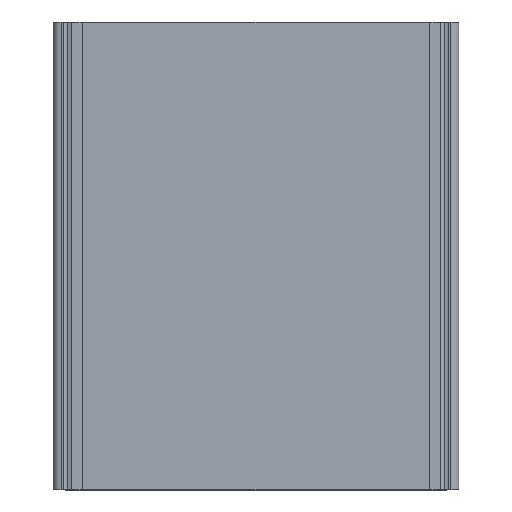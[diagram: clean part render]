
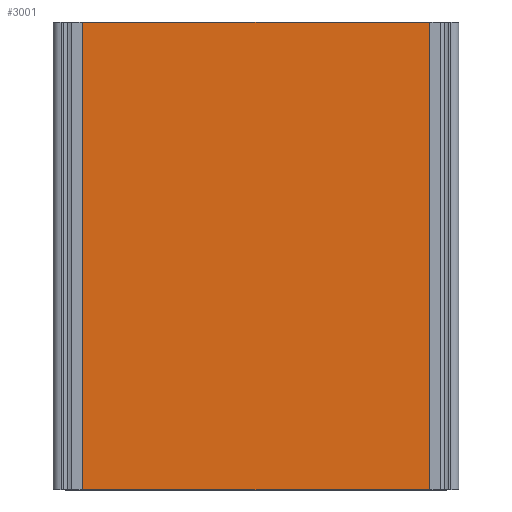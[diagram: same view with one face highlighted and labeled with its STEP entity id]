
A CAD part, top view. The second image highlights one B-rep face of the part: STEP entity #3001.
In plain terms, the highlighted planar face has unit normal (0, 0, 1).
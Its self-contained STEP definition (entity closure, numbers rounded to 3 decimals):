
#44 = VECTOR ( 'NONE', #2488, 1000. ) ;
#217 = FACE_OUTER_BOUND ( 'NONE', #2179, .T. ) ;
#388 = VERTEX_POINT ( 'NONE', #511 ) ;
#511 = CARTESIAN_POINT ( 'NONE',  ( 47.584, 0., 3. ) ) ;
#556 = VERTEX_POINT ( 'NONE', #1152 ) ;
#771 = DIRECTION ( 'NONE',  ( -1., 0., 0. ) ) ;
#802 = CARTESIAN_POINT ( 'NONE',  ( -47.584, 120., 3. ) ) ;
#876 = ORIENTED_EDGE ( 'NONE', *, *, #1588, .F. ) ;
#899 = ORIENTED_EDGE ( 'NONE', *, *, #3063, .T. ) ;
#922 = VERTEX_POINT ( 'NONE', #1953 ) ;
#1056 = VERTEX_POINT ( 'NONE', #1358 ) ;
#1148 = CARTESIAN_POINT ( 'NONE',  ( 47.584, 0., 3. ) ) ;
#1152 = CARTESIAN_POINT ( 'NONE',  ( -47.584, 0., 3. ) ) ;
#1312 = CARTESIAN_POINT ( 'NONE',  ( 47.584, 120., 3. ) ) ;
#1358 = CARTESIAN_POINT ( 'NONE',  ( -47.584, 120., 3. ) ) ;
#1588 = EDGE_CURVE ( 'NONE', #922, #388, #2958, .T. ) ;
#1617 = ORIENTED_EDGE ( 'NONE', *, *, #2912, .F. ) ;
#1751 = CARTESIAN_POINT ( 'NONE',  ( 47.584, 120., 3. ) ) ;
#1754 = LINE ( 'NONE', #2811, #1828 ) ;
#1774 = VECTOR ( 'NONE', #2438, 1000. ) ;
#1828 = VECTOR ( 'NONE', #1881, 1000. ) ;
#1881 = DIRECTION ( 'NONE',  ( 1., 0., 0. ) ) ;
#1937 = LINE ( 'NONE', #1148, #2495 ) ;
#1953 = CARTESIAN_POINT ( 'NONE',  ( 47.584, 120., 3. ) ) ;
#2179 = EDGE_LOOP ( 'NONE', ( #899, #876, #1617, #2907 ) ) ;
#2285 = EDGE_CURVE ( 'NONE', #1056, #556, #2468, .T. ) ;
#2438 = DIRECTION ( 'NONE',  ( 0., -1., 0. ) ) ;
#2468 = LINE ( 'NONE', #802, #44 ) ;
#2488 = DIRECTION ( 'NONE',  ( 0., -1., 0. ) ) ;
#2495 = VECTOR ( 'NONE', #2830, 1000. ) ;
#2688 = AXIS2_PLACEMENT_3D ( 'NONE', #1751, #2931, #771 ) ;
#2696 = PLANE ( 'NONE',  #2688 ) ;
#2811 = CARTESIAN_POINT ( 'NONE',  ( 47.584, 120., 3. ) ) ;
#2830 = DIRECTION ( 'NONE',  ( 1., 0., 0. ) ) ;
#2907 = ORIENTED_EDGE ( 'NONE', *, *, #2285, .T. ) ;
#2912 = EDGE_CURVE ( 'NONE', #1056, #922, #1754, .T. ) ;
#2931 = DIRECTION ( 'NONE',  ( 0., 0., -1. ) ) ;
#2958 = LINE ( 'NONE', #1312, #1774 ) ;
#3001 = ADVANCED_FACE ( 'NONE', ( #217 ), #2696, .F. ) ;
#3063 = EDGE_CURVE ( 'NONE', #556, #388, #1937, .T. ) ;
